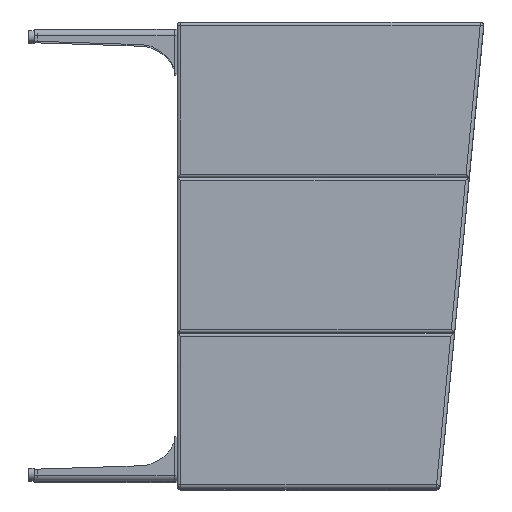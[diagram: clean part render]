
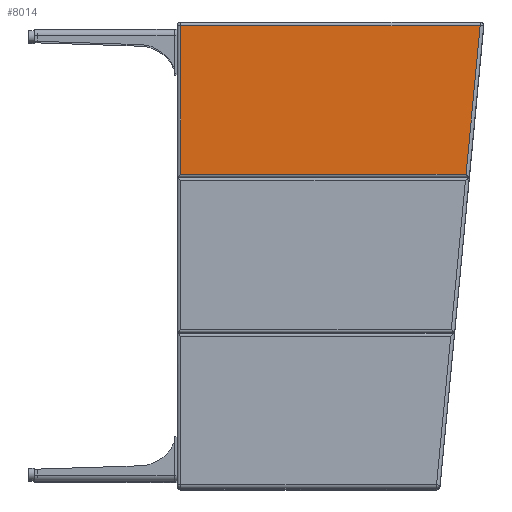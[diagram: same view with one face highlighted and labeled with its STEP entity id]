
A CAD part, top view. The second image highlights one B-rep face of the part: STEP entity #8014.
In plain terms, the highlighted planar face has unit normal (0, 0, 1).
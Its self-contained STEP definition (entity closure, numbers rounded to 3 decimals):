
#510 = VERTEX_POINT ( 'NONE', #13474 ) ;
#1185 = EDGE_CURVE ( 'NONE', #4511, #5096, #4720, .T. ) ;
#1776 = VECTOR ( 'NONE', #6104, 1000. ) ;
#2736 = ORIENTED_EDGE ( 'NONE', *, *, #4234, .F. ) ;
#2928 = EDGE_LOOP ( 'NONE', ( #10491, #2736, #3869, #13129 ) ) ;
#3399 = DIRECTION ( 'NONE',  ( 0., 1., 0. ) ) ;
#3869 = ORIENTED_EDGE ( 'NONE', *, *, #11671, .F. ) ;
#4212 = CARTESIAN_POINT ( 'NONE',  ( 439.027, -394.433, 785. ) ) ;
#4234 = EDGE_CURVE ( 'NONE', #510, #5286, #9467, .T. ) ;
#4471 = DIRECTION ( 'NONE',  ( 0., 0., 1. ) ) ;
#4511 = VERTEX_POINT ( 'NONE', #7981 ) ;
#4720 = LINE ( 'NONE', #8733, #4812 ) ;
#4812 = VECTOR ( 'NONE', #3399, 1000. ) ;
#5096 = VERTEX_POINT ( 'NONE', #6961 ) ;
#5202 = LINE ( 'NONE', #10382, #1776 ) ;
#5286 = VERTEX_POINT ( 'NONE', #12498 ) ;
#6104 = DIRECTION ( 'NONE',  ( 1., 0., 0. ) ) ;
#6961 = CARTESIAN_POINT ( 'NONE',  ( 6., 389., 785. ) ) ;
#7592 = DIRECTION ( 'NONE',  ( 1., 0., 0. ) ) ;
#7981 = CARTESIAN_POINT ( 'NONE',  ( 6., 137.066, 785. ) ) ;
#8014 = ADVANCED_FACE ( 'NONE', ( #8618 ), #9850, .T. ) ;
#8291 = LINE ( 'NONE', #11816, #9866 ) ;
#8421 = DIRECTION ( 'NONE',  ( -0.095, -0.996, 0. ) ) ;
#8618 = FACE_OUTER_BOUND ( 'NONE', #2928, .T. ) ;
#8733 = CARTESIAN_POINT ( 'NONE',  ( 6., 395., 785. ) ) ;
#8747 = CARTESIAN_POINT ( 'NONE',  ( 520., 0., 785. ) ) ;
#8864 = VECTOR ( 'NONE', #8421, 1000. ) ;
#8873 = AXIS2_PLACEMENT_3D ( 'NONE', #8747, #4471, #12968 ) ;
#9467 = LINE ( 'NONE', #4212, #8864 ) ;
#9850 = PLANE ( 'NONE',  #8873 ) ;
#9866 = VECTOR ( 'NONE', #7592, 1000. ) ;
#10382 = CARTESIAN_POINT ( 'NONE',  ( 520., 389., 785. ) ) ;
#10491 = ORIENTED_EDGE ( 'NONE', *, *, #13363, .T. ) ;
#11671 = EDGE_CURVE ( 'NONE', #5096, #510, #5202, .T. ) ;
#11816 = CARTESIAN_POINT ( 'NONE',  ( 520., 137.066, 785. ) ) ;
#12498 = CARTESIAN_POINT ( 'NONE',  ( 489.486, 137.066, 785. ) ) ;
#12968 = DIRECTION ( 'NONE',  ( -1., 0., 0. ) ) ;
#13129 = ORIENTED_EDGE ( 'NONE', *, *, #1185, .F. ) ;
#13363 = EDGE_CURVE ( 'NONE', #4511, #5286, #8291, .T. ) ;
#13474 = CARTESIAN_POINT ( 'NONE',  ( 513.403, 389., 785. ) ) ;
